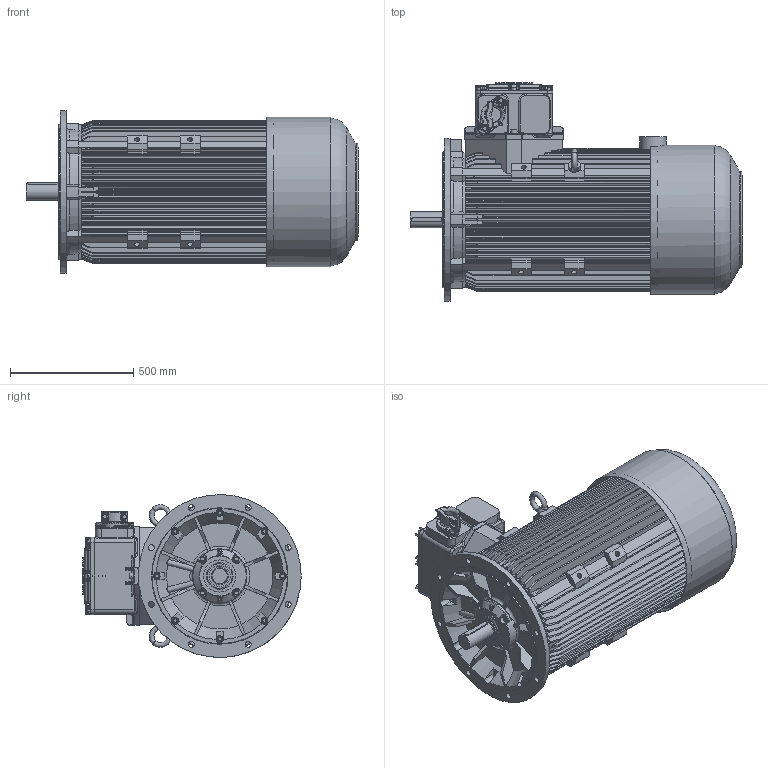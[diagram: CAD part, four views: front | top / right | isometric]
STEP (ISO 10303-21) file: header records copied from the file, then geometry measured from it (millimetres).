
FILE_DESCRIPTION(/* description */ ('Unknown'),/* implementation_level */ '2;1');
FILE_NAME(/* name */ 'EcSTKe(b)315M2(B,C)-N-IE(2,3)',/* time_stamp */ '2022-04-19T14:23:47+02:00',/* author */ ('Unknown'),/* organization */ ('Unknown'),/* preprocessor_version */ 'ST-DEVELOPER v16.7',/* originating_system */ 'DEX',/* authorisation */ $);
FILE_SCHEMA (('AUTOMOTIVE_DESIGN {1 0 10303 214 3 1 1}'));
Products named in the file (1): EcSTKe(b)315M2(B,C)-N-IE(2,3)
Bounding box: 1345.49 x 885 x 659.67 mm (x, y, z)
Volume: 300298865.8 mm3; surface area: 7500214.7 mm2
Topology: 1 solids, 65 shells, 3077 faces, 7789 edges, 4857 vertices
Faces by surface type: plane 1175, cylinder 965, torus 314, cone 313, bspline 232, sphere 78
Full cylindrical faces by diameter (mm): 3.2 x2, 8.16 x4, 8.376 x8, 10 x10, 11 x6, 12 x2, 13.546 x12, 13.835 x12, 14.63 x8, 16 x24, 17.5 x12, 18 x8, 20.752 x8, 24 x20, 26 x8, 62 x1, 65 x1, 67 x1, 81.5 x1, 82 x1, 85 x1, 87 x1, 106 x1, 129.8 x1, 150 x1, 220 x2, 260 x3, 268 x1, 475 x2, 482.797 x1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
Entity records: 120909 total; most frequent: CARTESIAN_POINT 28620, DIRECTION 14827, ORIENTED_EDGE 14510, EDGE_CURVE 7255, AXIS2_PLACEMENT_3D 5783, VERTEX_POINT 4699, FACE_BOUND 3542, EDGE_LOOP 3526
